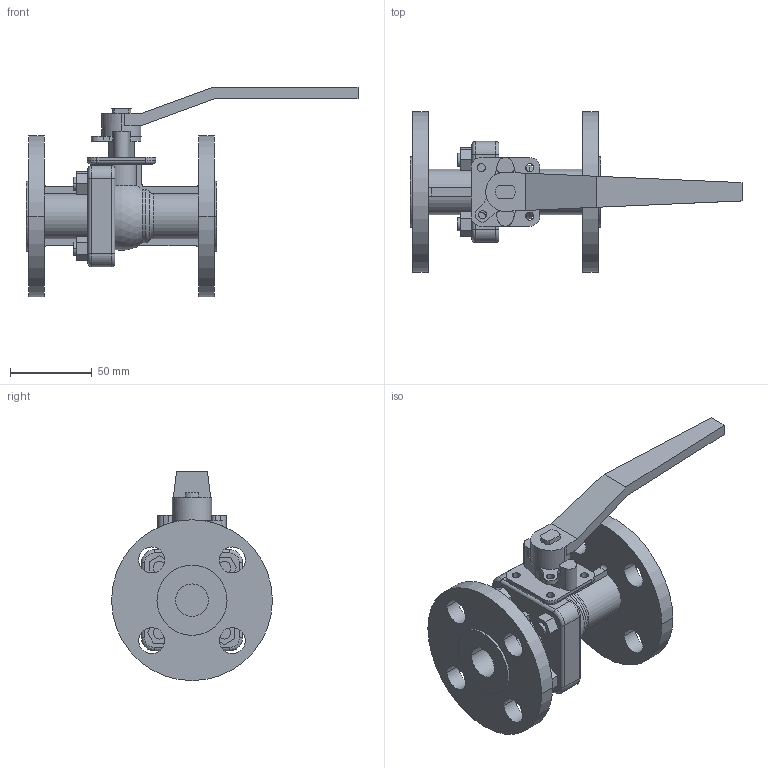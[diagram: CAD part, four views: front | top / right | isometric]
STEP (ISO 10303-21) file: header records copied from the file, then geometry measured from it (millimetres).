
FILE_DESCRIPTION( (''), '2;1');
FILE_NAME ('PC2091.16192.BLV-2SF ANSI150lb 20A_5908.stp','2026-05-28T09:06:56',(''),(''),'spGate 21.9.4 (****-****-****-****)','','');
FILE_SCHEMA (('AUTOMOTIVE_DESIGN'));
Length unit declared in the file: millimetre
Products named in the file (2): Assembly; BLV-2SFA 20A
Assembly tree (1 placements, depth 2):
  Assembly
    BLV-2SFA 20A
Bounding box: 203.5 x 98.6 x 128.3 mm (x, y, z)
Volume: 273796.4 mm3; surface area: 75551.6 mm2
Topology: 1 solids, 1 shells, 211 faces, 555 edges, 359 vertices
Faces by surface type: plane 98, cylinder 96, bspline 16, sphere 1
Entity records: 11499 total; most frequent: CARTESIAN_POINT 1741, DIRECTION 1124, ORIENTED_EDGE 1110, COLOUR_RGB 767, PRESENTATION_STYLE_ASSIGNMENT 767, STYLED_ITEM 767, EDGE_CURVE 555, DRAUGHTING_PRE_DEFINED_CURVE_FONT 555
